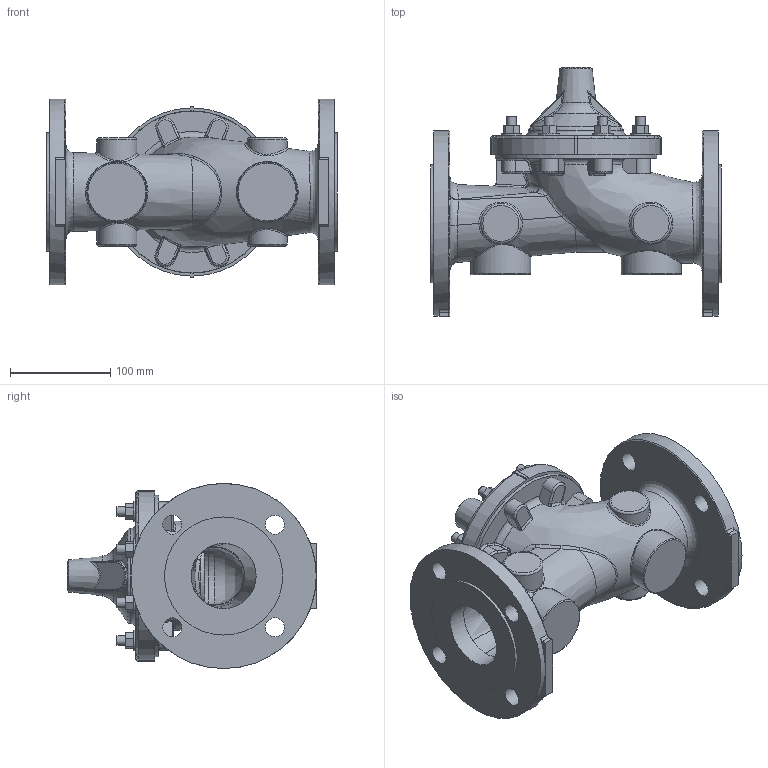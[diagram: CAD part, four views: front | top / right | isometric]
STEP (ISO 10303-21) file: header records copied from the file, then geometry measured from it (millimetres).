
FILE_DESCRIPTION(/* description */ (''),/* implementation_level */ '2;1');
FILE_NAME(/* name */ 'G:\Doc_Liberes\SymbolesCAD\Modeles_3D\FichierSTP\VanneDeBase\NGE065-16RF.stp',/* time_stamp */ '2023-08-17T11:45:04+02:00',/* author */ ('theo'),/* organization */ (''),/* preprocessor_version */ 'ST-DEVELOPER v18.1',/* originating_system */ 'Autodesk Inventor 2022',/* authorisation */ '');
FILE_SCHEMA (('AUTOMOTIVE_DESIGN { 1 0 10303 214 3 1 1 }'));
Products named in the file (1): NGE065_Simplifier_1
Bounding box: 290 x 249.15 x 185 mm (x, y, z)
Volume: 1972894.8 mm3; surface area: 387233.7 mm2
Topology: 1 solids, 1 shells, 1072 faces, 2824 edges, 1799 vertices
Faces by surface type: plane 456, bspline 229, cone 177, cylinder 118, torus 90, sphere 2
Full cylindrical faces by diameter (mm): 9.525 x16, 15.81 x1, 19 x8, 20.637 x8, 27 x1, 40 x4, 58.6 x1, 60 x2, 65 x2, 76 x1, 78.9 x2, 118 x2, 161.75 x1, 162 x1, 185 x2
Entity records: 45765 total; most frequent: CARTESIAN_POINT 21559, ORIENTED_EDGE 5612, DIRECTION 4221, EDGE_CURVE 2806, VERTEX_POINT 1800, AXIS2_PLACEMENT_3D 1580, EDGE_LOOP 1167, FACE_OUTER_BOUND 1069
